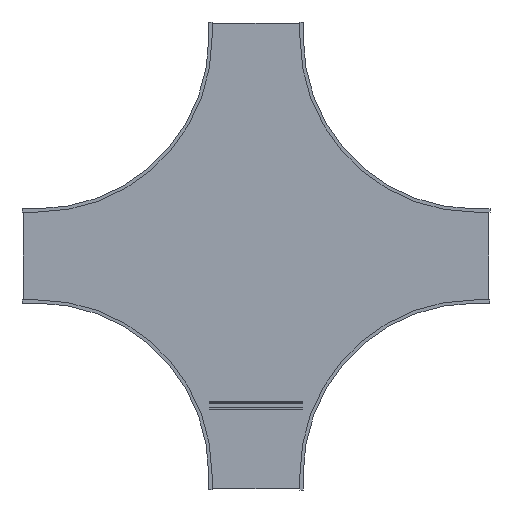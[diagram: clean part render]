
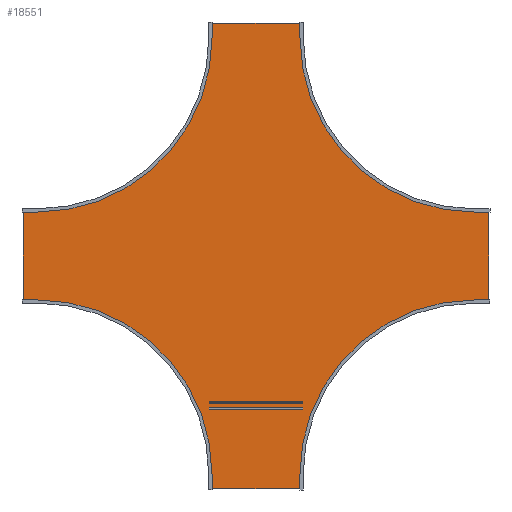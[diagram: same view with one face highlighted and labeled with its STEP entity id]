
A CAD part, front view. The second image highlights one B-rep face of the part: STEP entity #18551.
In plain terms, the highlighted planar face has unit normal (0, -1, 0).
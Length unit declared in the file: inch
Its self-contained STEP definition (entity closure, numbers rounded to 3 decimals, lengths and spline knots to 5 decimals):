
#18248=DIRECTION('',(0.,0.,1.));
#18249=VECTOR('',#18248,17.875);
#18250=CARTESIAN_POINT('',(-44.875,0.,-8.9375));
#18251=LINE('',#18250,#18249);
#18252=DIRECTION('',(1.,0.,0.));
#18253=VECTOR('',#18252,2.785);
#18254=CARTESIAN_POINT('',(-44.875,0.,8.9375));
#18255=LINE('',#18254,#18253);
#18256=CARTESIAN_POINT('',(-42.09,0.,42.09));
#18257=DIRECTION('',(0.,-1.,0.));
#18258=DIRECTION('',(0.,0.,-1.));
#18259=AXIS2_PLACEMENT_3D('',#18256,#18257,#18258);
#18261=DIRECTION('',(0.,0.,1.));
#18262=VECTOR('',#18261,2.785);
#18263=CARTESIAN_POINT('',(-8.9375,0.,42.09));
#18264=LINE('',#18263,#18262);
#18265=DIRECTION('',(1.,0.,0.));
#18266=VECTOR('',#18265,17.875);
#18267=CARTESIAN_POINT('',(-8.9375,0.,44.875));
#18268=LINE('',#18267,#18266);
#18269=DIRECTION('',(0.,0.,-1.));
#18270=VECTOR('',#18269,2.785);
#18271=CARTESIAN_POINT('',(8.9375,0.,44.875));
#18272=LINE('',#18271,#18270);
#18273=CARTESIAN_POINT('',(42.09,0.,42.09));
#18274=DIRECTION('',(0.,-1.,0.));
#18275=DIRECTION('',(-1.,0.,0.));
#18276=AXIS2_PLACEMENT_3D('',#18273,#18274,#18275);
#18278=DIRECTION('',(1.,0.,0.));
#18279=VECTOR('',#18278,2.785);
#18280=CARTESIAN_POINT('',(42.09,0.,8.9375));
#18281=LINE('',#18280,#18279);
#18282=DIRECTION('',(0.,0.,-1.));
#18283=VECTOR('',#18282,17.875);
#18284=CARTESIAN_POINT('',(44.875,0.,8.9375));
#18285=LINE('',#18284,#18283);
#18286=DIRECTION('',(-1.,0.,0.));
#18287=VECTOR('',#18286,2.785);
#18288=CARTESIAN_POINT('',(44.875,0.,-8.9375));
#18289=LINE('',#18288,#18287);
#18290=CARTESIAN_POINT('',(42.09,0.,-42.09));
#18291=DIRECTION('',(0.,-1.,0.));
#18292=DIRECTION('',(0.,0.,1.));
#18293=AXIS2_PLACEMENT_3D('',#18290,#18291,#18292);
#18295=DIRECTION('',(0.,0.,-1.));
#18296=VECTOR('',#18295,2.785);
#18297=CARTESIAN_POINT('',(8.9375,0.,-42.09));
#18298=LINE('',#18297,#18296);
#18299=DIRECTION('',(-1.,0.,0.));
#18300=VECTOR('',#18299,17.875);
#18301=CARTESIAN_POINT('',(8.9375,0.,-44.875));
#18302=LINE('',#18301,#18300);
#18303=DIRECTION('',(0.,0.,1.));
#18304=VECTOR('',#18303,2.785);
#18305=CARTESIAN_POINT('',(-8.9375,0.,-44.875));
#18306=LINE('',#18305,#18304);
#18307=CARTESIAN_POINT('',(-42.09,0.,-42.09));
#18308=DIRECTION('',(0.,-1.,0.));
#18309=DIRECTION('',(1.,0.,0.));
#18310=AXIS2_PLACEMENT_3D('',#18307,#18308,#18309);
#18312=DIRECTION('',(-1.,0.,0.));
#18313=VECTOR('',#18312,2.785);
#18314=CARTESIAN_POINT('',(-42.09,0.,-8.9375));
#18315=LINE('',#18314,#18313);
#18448=CARTESIAN_POINT('',(-44.875,0.,-8.9375));
#18449=CARTESIAN_POINT('',(-44.875,0.,8.9375));
#18450=VERTEX_POINT('',#18448);
#18451=VERTEX_POINT('',#18449);
#18452=CARTESIAN_POINT('',(-42.09,0.,8.9375));
#18453=VERTEX_POINT('',#18452);
#18454=CARTESIAN_POINT('',(-8.9375,0.,42.09));
#18455=VERTEX_POINT('',#18454);
#18456=CARTESIAN_POINT('',(-8.9375,0.,44.875));
#18457=VERTEX_POINT('',#18456);
#18458=CARTESIAN_POINT('',(8.9375,0.,44.875));
#18459=VERTEX_POINT('',#18458);
#18460=CARTESIAN_POINT('',(8.9375,0.,42.09));
#18461=VERTEX_POINT('',#18460);
#18462=CARTESIAN_POINT('',(42.09,0.,8.9375));
#18463=VERTEX_POINT('',#18462);
#18464=CARTESIAN_POINT('',(44.875,0.,8.9375));
#18465=VERTEX_POINT('',#18464);
#18466=CARTESIAN_POINT('',(44.875,0.,-8.9375));
#18467=VERTEX_POINT('',#18466);
#18468=CARTESIAN_POINT('',(42.09,0.,-8.9375));
#18469=VERTEX_POINT('',#18468);
#18470=CARTESIAN_POINT('',(8.9375,0.,-42.09));
#18471=VERTEX_POINT('',#18470);
#18472=CARTESIAN_POINT('',(8.9375,0.,-44.875));
#18473=VERTEX_POINT('',#18472);
#18474=CARTESIAN_POINT('',(-8.9375,0.,-44.875));
#18475=VERTEX_POINT('',#18474);
#18476=CARTESIAN_POINT('',(-8.9375,0.,-42.09));
#18477=VERTEX_POINT('',#18476);
#18478=CARTESIAN_POINT('',(-42.09,0.,-8.9375));
#18479=VERTEX_POINT('',#18478);
#18512=CARTESIAN_POINT('',(0.,0.,0.));
#18513=DIRECTION('',(0.,1.,0.));
#18514=DIRECTION('',(1.,0.,0.));
#18515=AXIS2_PLACEMENT_3D('',#18512,#18513,#18514);
#18516=PLANE('',#18515);
#18518=ORIENTED_EDGE('',*,*,#18517,.T.);
#18520=ORIENTED_EDGE('',*,*,#18519,.T.);
#18522=ORIENTED_EDGE('',*,*,#18521,.T.);
#18524=ORIENTED_EDGE('',*,*,#18523,.T.);
#18526=ORIENTED_EDGE('',*,*,#18525,.T.);
#18528=ORIENTED_EDGE('',*,*,#18527,.T.);
#18530=ORIENTED_EDGE('',*,*,#18529,.T.);
#18532=ORIENTED_EDGE('',*,*,#18531,.T.);
#18534=ORIENTED_EDGE('',*,*,#18533,.T.);
#18536=ORIENTED_EDGE('',*,*,#18535,.T.);
#18538=ORIENTED_EDGE('',*,*,#18537,.T.);
#18540=ORIENTED_EDGE('',*,*,#18539,.T.);
#18542=ORIENTED_EDGE('',*,*,#18541,.T.);
#18544=ORIENTED_EDGE('',*,*,#18543,.T.);
#18546=ORIENTED_EDGE('',*,*,#18545,.T.);
#18548=ORIENTED_EDGE('',*,*,#18547,.T.);
#18549=EDGE_LOOP('',(#18518,#18520,#18522,#18524,#18526,#18528,#18530,#18532,
#18534,#18536,#18538,#18540,#18542,#18544,#18546,#18548));
#18550=FACE_OUTER_BOUND('',#18549,.F.);
#18551=ADVANCED_FACE('',(#18550),#18516,.F.);
#18260=CIRCLE('',#18259,33.1525);
#18277=CIRCLE('',#18276,33.1525);
#18294=CIRCLE('',#18293,33.1525);
#18311=CIRCLE('',#18310,33.1525);
#18517=EDGE_CURVE('',#18450,#18451,#18251,.T.);
#18519=EDGE_CURVE('',#18451,#18453,#18255,.T.);
#18521=EDGE_CURVE('',#18453,#18455,#18260,.T.);
#18523=EDGE_CURVE('',#18455,#18457,#18264,.T.);
#18525=EDGE_CURVE('',#18457,#18459,#18268,.T.);
#18527=EDGE_CURVE('',#18459,#18461,#18272,.T.);
#18529=EDGE_CURVE('',#18461,#18463,#18277,.T.);
#18531=EDGE_CURVE('',#18463,#18465,#18281,.T.);
#18533=EDGE_CURVE('',#18465,#18467,#18285,.T.);
#18535=EDGE_CURVE('',#18467,#18469,#18289,.T.);
#18537=EDGE_CURVE('',#18469,#18471,#18294,.T.);
#18539=EDGE_CURVE('',#18471,#18473,#18298,.T.);
#18541=EDGE_CURVE('',#18473,#18475,#18302,.T.);
#18543=EDGE_CURVE('',#18475,#18477,#18306,.T.);
#18545=EDGE_CURVE('',#18477,#18479,#18311,.T.);
#18547=EDGE_CURVE('',#18479,#18450,#18315,.T.);
